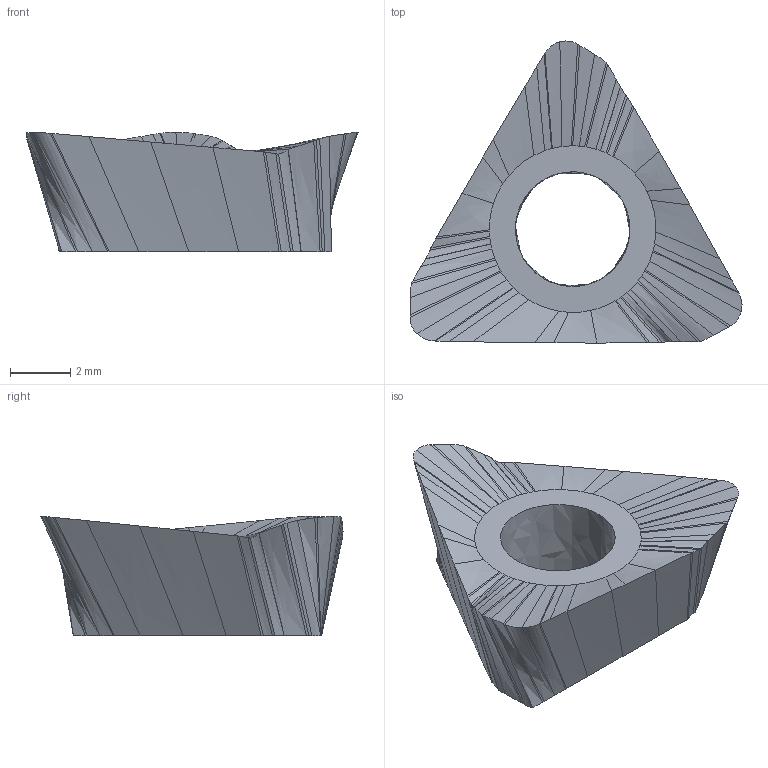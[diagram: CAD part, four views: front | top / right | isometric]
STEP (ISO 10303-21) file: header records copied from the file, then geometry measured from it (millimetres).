
FILE_DESCRIPTION(('CATIA V5 STEP','CAx-IF Rec.Pracs.--- Model Styling and Organization---1.2---2011-12-15'),'2;1');
FILE_NAME('N:\data\isr\design\special1\users\NATALY_B\Tal\NPA\5607516\HM390 TPCT 1003PDR.stp','2017-02-26T15:48:18+00:00',('none'),('none'),'CATIA Version 5 Release 21 SP 5 (IN-10)','CATIA V5 STEP AP214','none');
FILE_SCHEMA(('AUTOMOTIVE_DESIGN { 1 0 10303 214 1 1 1 1 }'));
Length unit declared in the file: millimetre
Products named in the file (1): HM390 TPCT 1003PDR
Bounding box: 11 x 10 x 3.95 mm (x, y, z)
Volume: 153 mm3; surface area: 243.8 mm2
Topology: 1 solids, 1 shells, 118 faces, 354 edges, 239 vertices
Faces by surface type: bspline 111, plane 5, extrusion 2
Entity records: 8481 total; most frequent: CARTESIAN_POINT 6360, ORIENTED_EDGE 606, B_SPLINE_CURVE_WITH_KNOTS 342, EDGE_CURVE 303, VERTEX_POINT 187, EDGE_LOOP 120, ADVANCED_FACE 118, FACE_OUTER_BOUND 118
